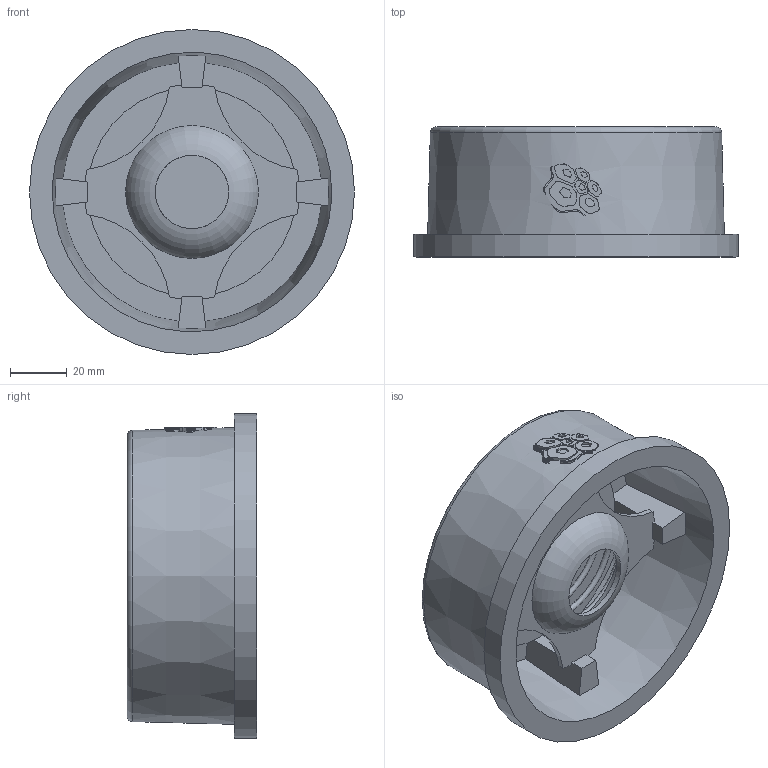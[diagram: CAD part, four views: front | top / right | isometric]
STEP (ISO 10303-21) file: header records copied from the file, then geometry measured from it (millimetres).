
FILE_DESCRIPTION(('STEP AP203'), '1');
FILE_NAME('3D_404-065-40', '', ('UNSPECIFIED'), ('UNSPECIFIED'), 'C3D Converter', 'C3D Toolkit', '');
FILE_SCHEMA(('CONFIG_CONTROL_DESIGN'));
Length unit declared in the file: millimetre
Bounding box: 115 x 46 x 115 mm (x, y, z)
Volume: 130162.7 mm3; surface area: 59524.8 mm2
Topology: 1 solids, 1 shells, 885 faces, 2610 edges, 1737 vertices
Faces by surface type: plane 854, cylinder 19, cone 8, torus 3, bspline 1
Full cylindrical faces by diameter (mm): 26 x1, 62 x1, 115 x1
Entity records: 40093 total; most frequent: CARTESIAN_POINT 10947, ORIENTED_EDGE 5200, DIRECTION 3616, EDGE_CURVE 2600, LINE 1738, VECTOR 1738, VERTEX_POINT 1736, AXIS2_PLACEMENT_3D 939
